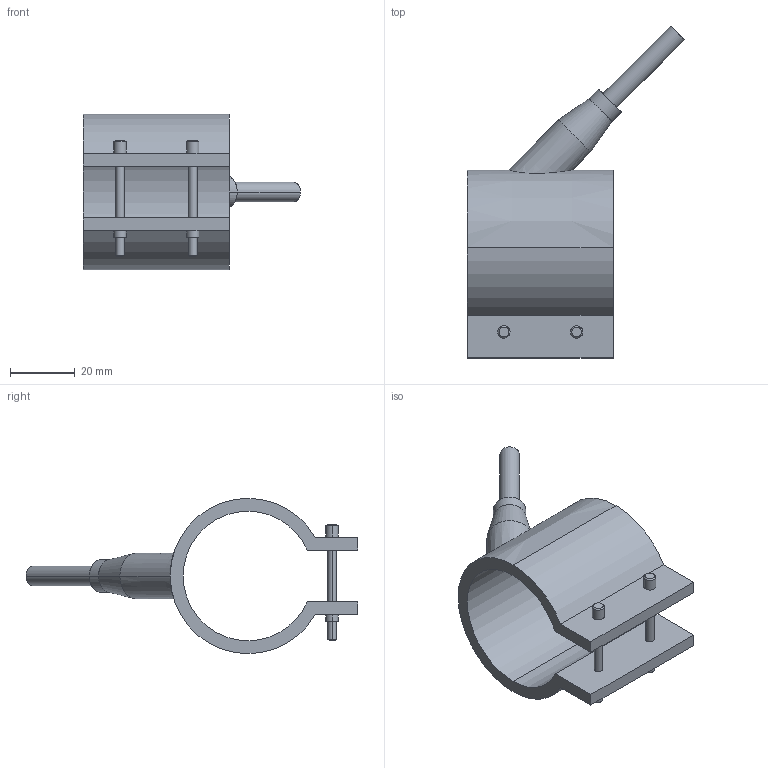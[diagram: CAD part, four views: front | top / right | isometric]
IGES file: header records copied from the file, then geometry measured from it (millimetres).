
Start section: START RECORD GO HERE.
Global section: file name: 29040045.igs; native system: DASSAULT SYSTEMES CATIA V5 R20 - www.3ds.com; preprocessor: CATIA Version 5 Release 20 ; author: Utente; organization: NB04-ASUS; date: 20210327.100939; units: millimetre
Bounding box: 67.05 x 102.55 x 48 mm (x, y, z)
Surface area: 16848 mm2 (no closed solid volume)
Topology: 0 solids, 0 shells, 54 faces, 248 edges, 248 vertices
Faces by surface type: revolution 38, plane 16
